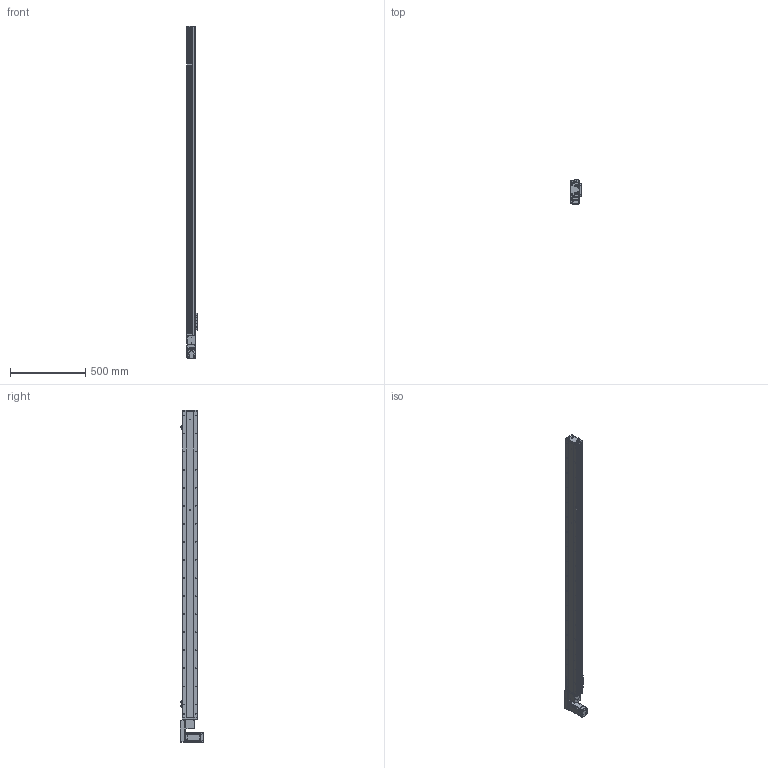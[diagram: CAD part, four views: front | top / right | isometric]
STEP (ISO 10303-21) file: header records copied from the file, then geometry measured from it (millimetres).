
FILE_DESCRIPTION (( 'STEP AP214' ), '1' );
FILE_NAME ('KSD100B-S1850-MLB-CR.STEP', '2019-11-13T01:40:13', ( '微软用户' ), ( '微软中国' ), 'SwSTEP 2.0', 'SolidWorks 2014', '' );
FILE_SCHEMA (( 'AUTOMOTIVE_DESIGN' ));
Length unit declared in the file: millimetre
Products named in the file (15): 100遵鎮湛假蚾啣蜊; 100宽端板同步带全封闭; 100宽滚珠螺姆安装板1防护罩; 100宽滚珠螺姆安装板1; 悵誘欶奻狟殏; 100遵裔啣揤啣; 100遵裔啣1850俴最; 100宽侧板1850行程同步带; 100宽底板全封闭1850行程同步带; KSD100B-S1850-MLB-CR; MHMD042G1CA_2_03; 100宽马达安装板连板上下折丝杆同步带; 感应片100宽全封闭; U倰嫖萇EEㄜSX672; 100宽马达安装板同步带左
Assembly tree (18 placements, depth 2):
  KSD100B-S1850-MLB-CR
    100宽底板全封闭1850行程同步带
    100宽侧板1850行程同步带  x2
    100遵裔啣1850俴最
    100遵裔啣揤啣  x2
    100宽滚珠螺姆安装板1
    100宽滚珠螺姆安装板1防护罩
    100宽端板同步带全封闭
    100遵鎮湛假蚾啣蜊
    100宽马达安装板同步带左
    U倰嫖萇EEㄜSX672  x3
    感应片100宽全封闭
    100宽马达安装板连板上下折丝杆同步带
    悵誘欶奻狟殏
    MHMD042G1CA_2_03
Bounding box: 70 x 156.2 x 2207 mm (x, y, z)
Volume: 4018186.7 mm3; surface area: 1746641.5 mm2
Topology: 17 solids, 18 shells, 2041 faces, 5724 edges, 3601 vertices
Faces by surface type: cylinder 937, plane 741, cone 343, bspline 20
Entity records: 72884 total; most frequent: CARTESIAN_POINT 11382, DIRECTION 9994, ORIENTED_EDGE 9156, EDGE_CURVE 4650, AXIS2_PLACEMENT_3D 3671, VERTEX_POINT 3079, LINE 2652, VECTOR 2652
